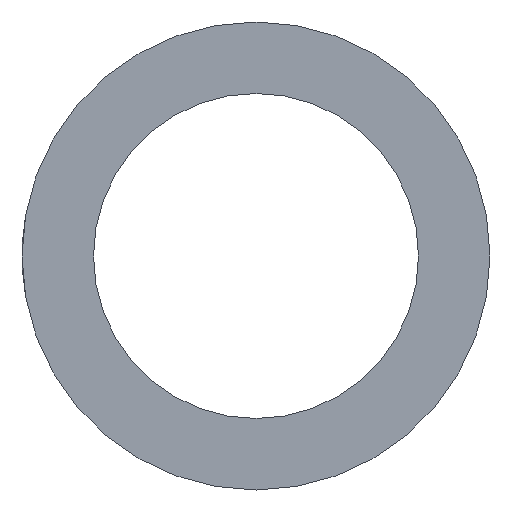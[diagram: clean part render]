
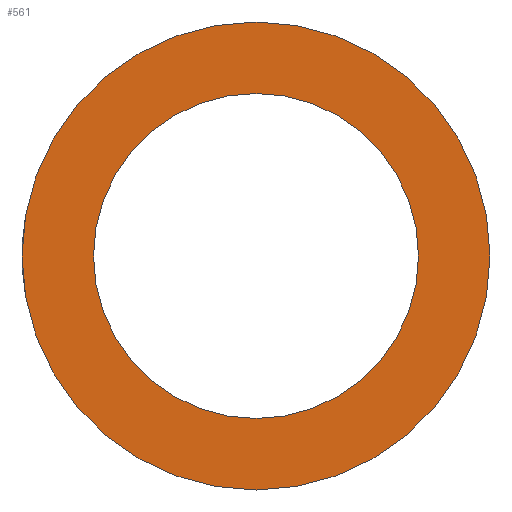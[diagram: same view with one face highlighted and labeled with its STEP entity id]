
A CAD part, left-side view. The second image highlights one B-rep face of the part: STEP entity #561.
In plain terms, the highlighted planar face has unit normal (-1, 0, 0).
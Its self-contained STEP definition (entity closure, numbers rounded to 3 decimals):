
#84 = CARTESIAN_POINT ( 'NONE',  ( 0., 0., -25. ) ) ;
#115 = CIRCLE ( 'NONE', #116, 25. ) ;
#116 = AXIS2_PLACEMENT_3D ( 'NONE', #117, #118, #121 ) ;
#117 = CARTESIAN_POINT ( 'NONE',  ( 0., 0., 0. ) ) ;
#118 = DIRECTION ( 'NONE',  ( -1., 0., 0. ) ) ;
#121 = DIRECTION ( 'NONE',  ( 0., 0., 1. ) ) ;
#138 = VERTEX_POINT ( 'NONE', #741 ) ;
#153 = CIRCLE ( 'NONE', #154, 36. ) ;
#154 = AXIS2_PLACEMENT_3D ( 'NONE', #155, #158, #159 ) ;
#155 = CARTESIAN_POINT ( 'NONE',  ( 0., 0., 0. ) ) ;
#158 = DIRECTION ( 'NONE',  ( -1., 0., 0. ) ) ;
#159 = DIRECTION ( 'NONE',  ( 0., 0., 1. ) ) ;
#242 = CIRCLE ( 'NONE', #244, 36. ) ;
#244 = AXIS2_PLACEMENT_3D ( 'NONE', #245, #246, #247 ) ;
#245 = CARTESIAN_POINT ( 'NONE',  ( 0., 0., 0. ) ) ;
#246 = DIRECTION ( 'NONE',  ( -1., 0., 0. ) ) ;
#247 = DIRECTION ( 'NONE',  ( 0., 0., 1. ) ) ;
#325 = ORIENTED_EDGE ( 'NONE', *, *, #829, .T. ) ;
#381 = CIRCLE ( 'NONE', #382, 25. ) ;
#382 = AXIS2_PLACEMENT_3D ( 'NONE', #383, #384, #385 ) ;
#383 = CARTESIAN_POINT ( 'NONE',  ( 0., 0., 0. ) ) ;
#384 = DIRECTION ( 'NONE',  ( -1., 0., 0. ) ) ;
#385 = DIRECTION ( 'NONE',  ( 0., 0., 1. ) ) ;
#396 = CARTESIAN_POINT ( 'NONE',  ( 0., 0., 36. ) ) ;
#502 = EDGE_CURVE ( 'NONE', #138, #645, #242, .T. ) ;
#521 = ORIENTED_EDGE ( 'NONE', *, *, #600, .F. ) ;
#561 = ADVANCED_FACE ( 'NONE', ( #689, #690 ), #691, .F. ) ;
#578 = EDGE_LOOP ( 'NONE', ( #325, #594 ) ) ;
#593 = ORIENTED_EDGE ( 'NONE', *, *, #642, .F. ) ;
#594 = ORIENTED_EDGE ( 'NONE', *, *, #502, .T. ) ;
#600 = EDGE_CURVE ( 'NONE', #820, #655, #115, .T. ) ;
#642 = EDGE_CURVE ( 'NONE', #655, #820, #381, .T. ) ;
#645 = VERTEX_POINT ( 'NONE', #396 ) ;
#649 = EDGE_LOOP ( 'NONE', ( #521, #593 ) ) ;
#655 = VERTEX_POINT ( 'NONE', #84 ) ;
#689 = FACE_BOUND ( 'NONE', #649, .T. ) ;
#690 = FACE_OUTER_BOUND ( 'NONE', #578, .T. ) ;
#691 = PLANE ( 'NONE',  #692 ) ;
#692 = AXIS2_PLACEMENT_3D ( 'NONE', #693, #698, #699 ) ;
#693 = CARTESIAN_POINT ( 'NONE',  ( 0., 0., -36. ) ) ;
#698 = DIRECTION ( 'NONE',  ( 1., 0., 0. ) ) ;
#699 = DIRECTION ( 'NONE',  ( 0., 0., -1. ) ) ;
#741 = CARTESIAN_POINT ( 'NONE',  ( 0., 0., -36. ) ) ;
#783 = CARTESIAN_POINT ( 'NONE',  ( 0., 0., 25. ) ) ;
#820 = VERTEX_POINT ( 'NONE', #783 ) ;
#829 = EDGE_CURVE ( 'NONE', #645, #138, #153, .T. ) ;
